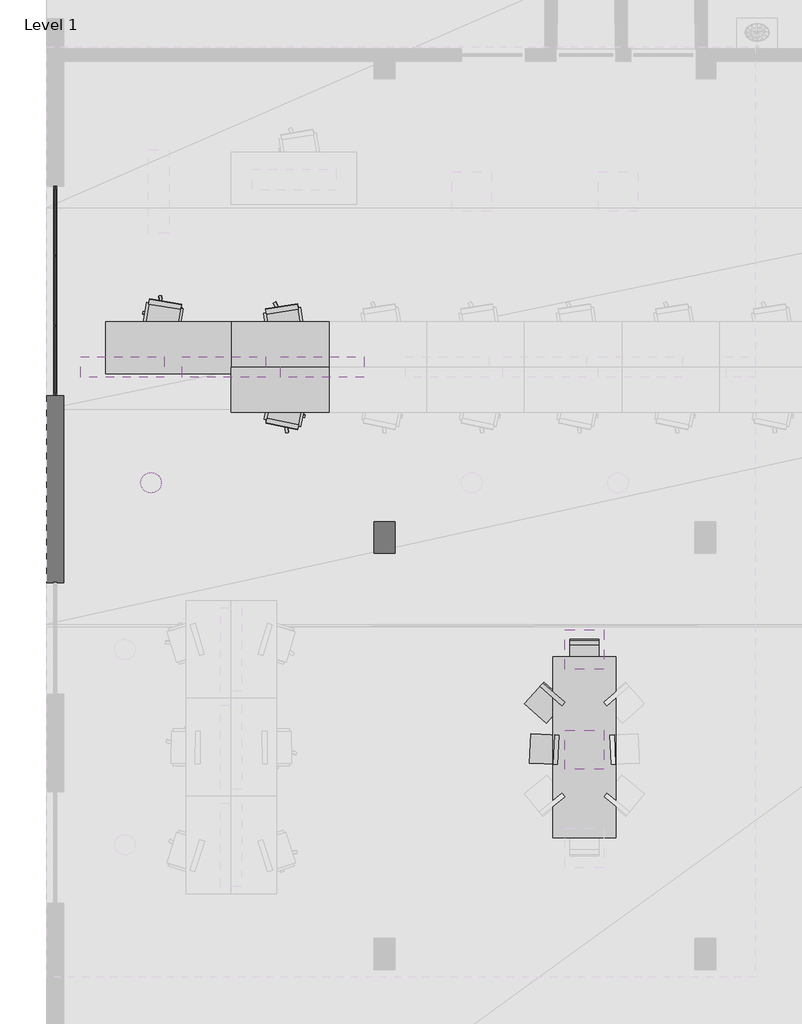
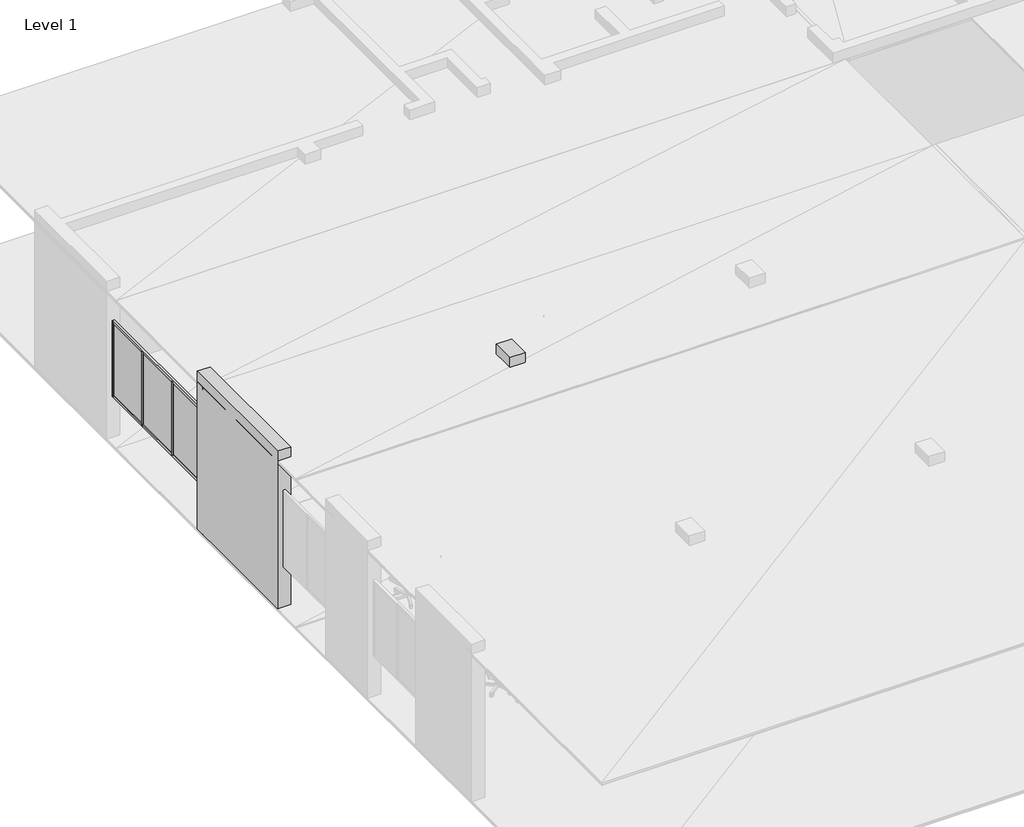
# One storey, part 6 of 14: 23 proxies.
"""IFC4 building model written with IfcOpenShell, lengths in millimetres."""

from ifc_helpers import new_model, si_unit, frame, origin, origin_with_axes, place, context, project, spatial, polyline, outline, extrude, element, save

model = new_model("IFC4")

# Units and contexts
model_context = context("Model", 3, world=origin())
ifc_project = project(units=[si_unit("LENGTHUNIT", "METRE", prefix="MILLI")], contexts=[model_context])

# Site, building, storey
site = spatial("IfcSite", under=ifc_project)
building = spatial("IfcBuilding", under=site)
storey = spatial("IfcBuildingStorey", under=building, Name="Level 1", Elevation=0.0)

# Proxies
placement = place(None, origin())
element("IfcBuildingElementProxy", 1, Name="Generic Models", at=placement, inside=storey, context=model_context, shape_type="SweptSolid", body=[
    extrude(outline(polyline([(2656.826019, 13859.130859), (4056.826115, 13859.130859), (4056.826115, 13209.131241), (2656.826019, 13209.131241), (2656.826019, 13859.130859)])), frame((0.0, 0.0, 709.999979), z_axis=(0.0, 0.0, 1.0), x_axis=(1.0, 0.0, 0.0)), (0.0, 0.0, 1.0), 40.000021),
])
element("IfcBuildingElementProxy", 2, Name="Generic Models", at=placement, inside=storey, context=model_context, shape_type="SweptSolid", body=[
    extrude(outline(polyline([(2656.826019, 14509.131432), (4056.826115, 14509.131432), (4056.826115, 13859.130859), (2656.826019, 13859.130859), (2656.826019, 14509.131432)])), frame((0.0, 0.0, 709.999979), z_axis=(0.0, 0.0, 1.0), x_axis=(1.0, 0.0, 0.0)), (0.0, 0.0, 1.0), 40.000021),
])
element("IfcBuildingElementProxy", 3, Name="Generic Models", at=placement, inside=storey, context=model_context, shape_type="SweptSolid", body=[
    extrude(outline(polyline([(2656.826019, 13759.131432), (856.826067, 13759.131432), (856.826067, 14509.131432), (2656.826019, 14509.131432), (2656.826019, 13759.131432)])), frame((0.0, 0.0, 709.999979), z_axis=(0.0, 0.0, 1.0), x_axis=(1.0, 0.0, 0.0)), (0.0, 0.0, 1.0), 40.000021),
])
element("IfcBuildingElementProxy", 4, Name="Generic Models", at=placement, inside=storey, context=model_context, shape_type="SweptSolid", body=[
    extrude(outline(polyline([(4706.017494, 11640.000343), (5006.017685, 11640.000343), (5006.017685, 11190.000534), (4706.017494, 11190.000534), (4706.017494, 11640.000343)])), origin_with_axes(), (0.0, 0.0, 1.0), 3200.000048),
])
element("IfcBuildingElementProxy", 5, Name="Generic Models", at=placement, inside=storey, context=model_context, shape_type="SweptSolid", body=[
    extrude(outline(polyline([(6.826094, 13450.000763), (256.826103, 13450.000763), (256.826103, 10770.000458), (6.826094, 10770.000458), (6.826094, 13450.000763)])), origin_with_axes(), (0.0, 0.0, 1.0), 3200.000048),
])
element("IfcBuildingElementProxy", 6, Name="Generic Models", at=placement, inside=storey, context=model_context, shape_type="SweptSolid", body=[
    extrude(outline(polyline([(153.899997, 15437.5), (108.900003, 15437.5), (108.900003, 15462.499619), (153.899997, 15462.499619), (153.899997, 15437.5)])), frame((0.0, 0.0, 850.000024), z_axis=(0.0, 0.0, 1.0), x_axis=(1.0, 0.0, 0.0)), (0.0, 0.0, 1.0), 1499.999881),
    extrude(outline(polyline([(153.899997, 14437.5), (108.900003, 14437.5), (108.900003, 14462.499619), (153.899997, 14462.499619), (153.899997, 14437.5)])), frame((0.0, 0.0, 850.000024), z_axis=(0.0, 0.0, 1.0), x_axis=(1.0, 0.0, 0.0)), (0.0, 0.0, 1.0), 1499.999881),
    extrude(outline(polyline([(153.899997, 16407.499313), (108.900003, 16407.499313), (108.900003, 16452.49939), (153.899997, 16452.49939), (153.899997, 16407.499313)])), frame((0.0, 0.0, 850.000024), z_axis=(0.0, 0.0, 1.0), x_axis=(1.0, 0.0, 0.0)), (0.0, 0.0, 1.0), 1499.999881),
    extrude(outline(polyline([(153.899997, 13447.500229), (108.900003, 13447.500229), (108.900003, 13492.500305), (153.899997, 13492.500305), (153.899997, 13447.500229)])), frame((0.0, 0.0, 850.000024), z_axis=(0.0, 0.0, 1.0), x_axis=(1.0, 0.0, 0.0)), (0.0, 0.0, 1.0), 1499.999881),
    extrude(outline(polyline([(153.899997, 13449.999809), (108.900003, 13449.999809), (108.900003, 16450.000763), (153.899997, 16450.000763), (153.899997, 13449.999809)])), frame((0.0, 0.0, 2327.500105), z_axis=(0.0, 0.0, 1.0), x_axis=(1.0, 0.0, 0.0)), (0.0, 0.0, 1.0), 44.999838),
    extrude(outline(polyline([(153.899997, 13449.999809), (108.900003, 13449.999809), (108.900003, 16450.000763), (153.899997, 16450.000763), (153.899997, 13449.999809)])), frame((0.0, 0.0, 827.499986), z_axis=(0.0, 0.0, 1.0), x_axis=(1.0, 0.0, 0.0)), (0.0, 0.0, 1.0), 45.000016),
    extrude(outline(polyline([(140.400007, 13449.999809), (122.400001, 13449.999809), (122.400001, 16450.000763), (140.400007, 16450.000763), (140.400007, 13449.999809)])), frame((0.0, 0.0, 850.000024), z_axis=(0.0, 0.0, 1.0), x_axis=(1.0, 0.0, 0.0)), (0.0, 0.0, 1.0), 1499.999881),
])
element("IfcBuildingElementProxy", 7, Name="Generic Models", at=placement, inside=storey, context=model_context, shape_type="SweptSolid", body=[
    extrude(outline(polyline([(496.284008, 13709.131241), (496.284008, 14009.130478), (1696.284056, 14009.130478), (1696.284056, 13709.131241), (496.284008, 13709.131241)])), frame((0.0, 0.0, 2910.000086), z_axis=(0.0, 0.0, 1.0), x_axis=(1.0, 0.0, 0.0)), (0.0, 0.0, 1.0), 39.999962),
])
element("IfcBuildingElementProxy", 8, Name="Generic Models", at=placement, inside=storey, context=model_context, shape_type="SweptSolid", body=[
    extrude(outline(polyline([(1949.607015, 13709.131241), (1949.607015, 14009.130478), (3149.607182, 14009.130478), (3149.607182, 13709.131241), (1949.607015, 13709.131241)])), frame((0.0, 0.0, 2910.000086), z_axis=(0.0, 0.0, 1.0), x_axis=(1.0, 0.0, 0.0)), (0.0, 0.0, 1.0), 39.999962),
])
element("IfcBuildingElementProxy", 9, Name="Generic Models", at=placement, inside=storey, context=model_context, shape_type="SweptSolid", body=[
    extrude(outline(polyline([(3360.656738, 13709.131241), (3360.656738, 14009.130478), (4560.657024, 14009.130478), (4560.657024, 13709.131241), (3360.656738, 13709.131241)])), frame((0.0, 0.0, 2910.000086), z_axis=(0.0, 0.0, 1.0), x_axis=(1.0, 0.0, 0.0)), (0.0, 0.0, 1.0), 39.999962),
])
element("IfcBuildingElementProxy", 10, Name="Generic Models", at=placement, inside=storey, context=model_context, shape_type="SweptSolid", body=[
    extrude(outline(polyline([(7443.556786, 8090.051651), (7443.556786, 8650.051117), (8003.557205, 8650.051117), (8003.557205, 8090.051651), (7443.556786, 8090.051651)])), frame((0.0, 0.0, 2910.000086), z_axis=(0.0, 0.0, 1.0), x_axis=(1.0, 0.0, 0.0)), (0.0, 0.0, 1.0), 39.999962),
])
element("IfcBuildingElementProxy", 11, Name="Generic Models", at=placement, inside=storey, context=model_context, shape_type="SweptSolid", body=[
    extrude(outline(polyline([(7443.556786, 9529.367447), (7443.556786, 10089.366913), (8003.557205, 10089.366913), (8003.557205, 9529.367447), (7443.556786, 9529.367447)])), frame((0.0, 0.0, 2910.000086), z_axis=(0.0, 0.0, 1.0), x_axis=(1.0, 0.0, 0.0)), (0.0, 0.0, 1.0), 39.999962),
])
element("IfcBuildingElementProxy", 12, Name="Generic Models", at=placement, inside=storey, context=model_context, shape_type="SweptSolid", body=[
    extrude(outline(polyline([(1642.161012, 12143.173218), (1628.543496, 12117.696762), (1610.217333, 12095.366478), (1587.88693, 12077.040672), (1562.410355, 12063.423157), (1534.766555, 12055.037498), (1506.018043, 12052.206039), (1477.26953, 12055.037498), (1449.625731, 12063.423157), (1424.149156, 12077.040672), (1401.818752, 12095.366478), (1383.492589, 12117.696762), (1369.875073, 12143.173218), (1361.489415, 12170.817375), (1358.657956, 12199.565887), (1361.489415, 12228.3144), (1369.875073, 12255.958557), (1383.492589, 12281.435013), (1401.818752, 12303.765297), (1424.149156, 12322.091103), (1449.625731, 12335.708618), (1477.26953, 12344.094276), (1506.018043, 12346.925735), (1534.766555, 12344.094276), (1562.410355, 12335.708618), (1587.88693, 12322.091103), (1610.217333, 12303.765297), (1628.543496, 12281.435013), (1642.161012, 12255.958557), (1650.54667, 12228.3144), (1653.378129, 12199.565887), (1650.54667, 12170.817375), (1642.161012, 12143.173218)])), frame((0.0, 0.0, 2910.000086), z_axis=(0.0, 0.0, 1.0), x_axis=(1.0, 0.0, 0.0)), (0.0, 0.0, 1.0), 39.999962),
])
element("IfcBuildingElementProxy", 13, Name="Generic Models", at=placement, inside=storey, context=model_context, shape_type="SweptSolid", body=[
    extrude(outline(polyline([(6942.421436, 9040.991783), (6923.870564, 9020.017624), (6902.897358, 9038.568497), (6921.447754, 9059.541702), (6942.421436, 9040.991783)])), frame((0.0, 0.0, 50.000001), z_axis=(0.0, 0.0, 1.0), x_axis=(1.0, 0.0, 0.0)), (0.0, 0.0, 1.0), 389.999997),
    extrude(outline(polyline([(7154.426098, 9280.686378), (7135.875702, 9259.713173), (7114.902496, 9278.264046), (7133.452892, 9299.237251), (7154.426098, 9280.686378)])), frame((0.0, 0.0, 50.000001), z_axis=(0.0, 0.0, 1.0), x_axis=(1.0, 0.0, 0.0)), (0.0, 0.0, 1.0), 389.999997),
    extrude(outline(polyline([(7197.097778, 8815.735817), (7178.546906, 8794.762611), (7157.5737, 8813.313484), (7176.124096, 8834.28669), (7197.097778, 8815.735817)])), frame((0.0, 0.0, 50.000001), z_axis=(0.0, 0.0, 1.0), x_axis=(1.0, 0.0, 0.0)), (0.0, 0.0, 1.0), 389.999997),
    extrude(outline(polyline([(7409.10244, 9055.431366), (7390.552044, 9034.45816), (7369.578838, 9053.009033), (7388.129234, 9073.982239), (7409.10244, 9055.431366)])), frame((0.0, 0.0, 50.000001), z_axis=(0.0, 0.0, 1.0), x_axis=(1.0, 0.0, 0.0)), (0.0, 0.0, 1.0), 389.999997),
    extrude(outline(polyline([(7439.17799, 9050.190926), (7399.426937, 9005.24807), (7084.826946, 9283.504486), (7124.577999, 9328.447342), (7439.17799, 9050.190926)])), frame((0.0, 0.0, 460.000008), z_axis=(0.0, 0.0, 1.0), x_axis=(1.0, 0.0, 0.0)), (0.0, 0.0, 1.0), 400.000006),
    extrude(outline(polyline([(7452.428341, 9065.172195), (7174.171925, 8750.571251), (6859.571457, 9028.828621), (7137.82835, 9343.428612), (7452.428341, 9065.172195)])), frame((0.0, 0.0, 417.499989), z_axis=(0.0, 0.0, 1.0), x_axis=(1.0, 0.0, 0.0)), (0.0, 0.0, 1.0), 55.000007),
])
element("IfcBuildingElementProxy", 14, Name="Generic Models", at=placement, inside=storey, context=model_context, shape_type="SweptSolid", body=[
    extrude(outline(polyline([(7017.27438, 8543.502808), (6989.303589, 8544.781685), (6990.581989, 8572.751999), (7018.55278, 8571.474075), (7017.27438, 8543.502808)])), frame((0.0, 0.0, 50.000001), z_axis=(0.0, 0.0, 1.0), x_axis=(1.0, 0.0, 0.0)), (0.0, 0.0, 1.0), 389.999997),
    extrude(outline(polyline([(7336.940765, 8528.893471), (7308.969975, 8530.171394), (7310.248375, 8558.142662), (7338.219166, 8556.863785), (7336.940765, 8528.893471)])), frame((0.0, 0.0, 50.000001), z_axis=(0.0, 0.0, 1.0), x_axis=(1.0, 0.0, 0.0)), (0.0, 0.0, 1.0), 389.999997),
    extrude(outline(polyline([(7001.7519, 8203.857422), (6973.781109, 8205.136299), (6975.059032, 8233.106613), (7003.029823, 8231.82869), (7001.7519, 8203.857422)])), frame((0.0, 0.0, 50.000001), z_axis=(0.0, 0.0, 1.0), x_axis=(1.0, 0.0, 0.0)), (0.0, 0.0, 1.0), 389.999997),
    extrude(outline(polyline([(7321.417809, 8189.248085), (7293.447018, 8190.526009), (7294.725418, 8218.497276), (7322.696209, 8217.218399), (7321.417809, 8189.248085)])), frame((0.0, 0.0, 50.000001), z_axis=(0.0, 0.0, 1.0), x_axis=(1.0, 0.0, 0.0)), (0.0, 0.0, 1.0), 389.999997),
    extrude(outline(polyline([(7336.214542, 8162.54425), (7276.277065, 8165.284157), (7295.452118, 8584.845543), (7355.389595, 8582.10659), (7336.214542, 8162.54425)])), frame((0.0, 0.0, 460.000008), z_axis=(0.0, 0.0, 1.0), x_axis=(1.0, 0.0, 0.0)), (0.0, 0.0, 1.0), 400.000006),
    extrude(outline(polyline([(7356.193542, 8161.631584), (6936.631203, 8180.80616), (6955.806732, 8600.3685), (7375.368595, 8581.193924), (7356.193542, 8161.631584)])), frame((0.0, 0.0, 417.499989), z_axis=(0.0, 0.0, 1.0), x_axis=(1.0, 0.0, 0.0)), (0.0, 0.0, 1.0), 55.000007),
])
element("IfcBuildingElementProxy", 15, Name="Generic Models", at=placement, inside=storey, context=model_context, shape_type="SweptSolid", body=[
    extrude(outline(polyline([(7565.980911, 9602.020264), (7565.977097, 9574.020386), (7537.977219, 9574.0242), (7537.981033, 9602.024078), (7565.980911, 9602.020264)])), frame((0.0, 0.0, 50.000001), z_axis=(0.0, 0.0, 1.0), x_axis=(1.0, 0.0, 0.0)), (0.0, 0.0, 1.0), 389.999997),
    extrude(outline(polyline([(7566.022873, 9922.019958), (7566.019058, 9894.020081), (7538.01918, 9894.023895), (7538.022518, 9922.023773), (7566.022873, 9922.019958)])), frame((0.0, 0.0, 50.000001), z_axis=(0.0, 0.0, 1.0), x_axis=(1.0, 0.0, 0.0)), (0.0, 0.0, 1.0), 389.999997),
    extrude(outline(polyline([(7905.981064, 9601.976395), (7905.977249, 9573.975563), (7877.977371, 9573.979378), (7877.980709, 9601.979256), (7905.981064, 9601.976395)])), frame((0.0, 0.0, 50.000001), z_axis=(0.0, 0.0, 1.0), x_axis=(1.0, 0.0, 0.0)), (0.0, 0.0, 1.0), 389.999997),
    extrude(outline(polyline([(7906.022549, 9921.976089), (7906.019211, 9893.976212), (7878.018856, 9893.980026), (7878.022671, 9921.979904), (7906.022549, 9921.976089)])), frame((0.0, 0.0, 50.000001), z_axis=(0.0, 0.0, 1.0), x_axis=(1.0, 0.0, 0.0)), (0.0, 0.0, 1.0), 389.999997),
    extrude(outline(polyline([(7932.024956, 9937.973022), (7932.01685, 9877.972603), (7512.016773, 9878.026962), (7512.024879, 9938.027382), (7932.024956, 9937.973022)])), frame((0.0, 0.0, 460.000008), z_axis=(0.0, 0.0, 1.0), x_axis=(1.0, 0.0, 0.0)), (0.0, 0.0, 1.0), 400.000006),
    extrude(outline(polyline([(7932.02734, 9957.972527), (7931.972504, 9537.97245), (7511.972427, 9538.027763), (7512.027264, 9958.02784), (7932.02734, 9957.972527)])), frame((0.0, 0.0, 417.499989), z_axis=(0.0, 0.0, 1.0), x_axis=(1.0, 0.0, 0.0)), (0.0, 0.0, 1.0), 55.000007),
])
element("IfcBuildingElementProxy", 16, Name="Generic Models", at=placement, inside=storey, context=model_context, shape_type="SweptSolid", body=[
    extrude(outline(polyline([(7272.175312, 7108.782291), (7272.175312, 9704.969406), (8172.175407, 9704.969406), (8172.175407, 7108.782291), (7272.175312, 7108.782291)])), frame((0.0, 0.0, 709.999979), z_axis=(0.0, 0.0, 1.0), x_axis=(1.0, 0.0, 0.0)), (0.0, 0.0, 1.0), 40.000021),
])
element("IfcBuildingElementProxy", 17, Name="Generic Models", at=placement, inside=storey, context=model_context, shape_type="SweptSolid", body=[
    extrude(outline(polyline([(4004.326344, 13284.13105), (3959.326029, 13284.13105), (3959.326029, 13784.13105), (4004.326344, 13784.13105), (4004.326344, 13284.13105)])), frame((0.0, 0.0, 639.999986), z_axis=(0.0, 0.0, 1.0), x_axis=(1.0, 0.0, 0.0)), (0.0, 0.0, 1.0), 69.999993),
    extrude(outline(polyline([(2754.326105, 13284.13105), (2709.326029, 13284.13105), (2709.326029, 13784.13105), (2754.326105, 13784.13105), (2754.326105, 13284.13105)])), frame((0.0, 0.0, 639.999986), z_axis=(0.0, 0.0, 1.0), x_axis=(1.0, 0.0, 0.0)), (0.0, 0.0, 1.0), 69.999993),
    extrude(outline(polyline([(2731.826067, 13761.631012), (2731.826067, 13806.631088), (3981.826067, 13806.631088), (3981.826067, 13761.631012), (2731.826067, 13761.631012)])), frame((0.0, 0.0, 639.999986), z_axis=(0.0, 0.0, 1.0), x_axis=(1.0, 0.0, 0.0)), (0.0, 0.0, 1.0), 69.999993),
    extrude(outline(polyline([(2731.826067, 13261.631012), (2731.826067, 13306.631088), (3981.826067, 13306.631088), (3981.826067, 13261.631012), (2731.826067, 13261.631012)])), frame((0.0, 0.0, 639.999986), z_axis=(0.0, 0.0, 1.0), x_axis=(1.0, 0.0, 0.0)), (0.0, 0.0, 1.0), 69.999993),
    extrude(outline(polyline([(3957.451105, 13759.756088), (3957.451105, 13808.506012), (4006.201267, 13808.506012), (4006.201267, 13759.756088), (3957.451105, 13759.756088)])), frame((0.0, 0.0, 50.000001), z_axis=(0.0, 0.0, 1.0), x_axis=(1.0, 0.0, 0.0)), (0.0, 0.0, 1.0), 659.999978),
    extrude(outline(polyline([(3957.451105, 13259.756088), (3957.451105, 13308.506012), (4006.201267, 13308.506012), (4006.201267, 13259.756088), (3957.451105, 13259.756088)])), frame((0.0, 0.0, 50.000001), z_axis=(0.0, 0.0, 1.0), x_axis=(1.0, 0.0, 0.0)), (0.0, 0.0, 1.0), 659.999978),
    extrude(outline(polyline([(2707.451105, 13759.756088), (2707.451105, 13808.506012), (2756.201029, 13808.506012), (2756.201029, 13759.756088), (2707.451105, 13759.756088)])), frame((0.0, 0.0, 50.000001), z_axis=(0.0, 0.0, 1.0), x_axis=(1.0, 0.0, 0.0)), (0.0, 0.0, 1.0), 659.999978),
    extrude(outline(polyline([(2707.451105, 13259.756088), (2707.451105, 13308.506012), (2756.201029, 13308.506012), (2756.201029, 13259.756088), (2707.451105, 13259.756088)])), frame((0.0, 0.0, 50.000001), z_axis=(0.0, 0.0, 1.0), x_axis=(1.0, 0.0, 0.0)), (0.0, 0.0, 1.0), 659.999978),
])
element("IfcBuildingElementProxy", 18, Name="Generic Models", at=placement, inside=storey, context=model_context, shape_type="SweptSolid", body=[
    extrude(outline(polyline([(2604.32601, 13834.131241), (2559.325933, 13834.131241), (2559.325933, 14434.131622), (2604.32601, 14434.131622), (2604.32601, 13834.131241)])), frame((0.0, 0.0, 639.999986), z_axis=(0.0, 0.0, 1.0), x_axis=(1.0, 0.0, 0.0)), (0.0, 0.0, 1.0), 69.999993),
    extrude(outline(polyline([(954.326093, 13834.131241), (909.326077, 13834.131241), (909.326077, 14434.131622), (954.326093, 14434.131622), (954.326093, 13834.131241)])), frame((0.0, 0.0, 639.999986), z_axis=(0.0, 0.0, 1.0), x_axis=(1.0, 0.0, 0.0)), (0.0, 0.0, 1.0), 69.999993),
    extrude(outline(polyline([(931.826055, 14411.631584), (931.826055, 14456.63166), (2581.825972, 14456.63166), (2581.825972, 14411.631584), (931.826055, 14411.631584)])), frame((0.0, 0.0, 639.999986), z_axis=(0.0, 0.0, 1.0), x_axis=(1.0, 0.0, 0.0)), (0.0, 0.0, 1.0), 69.999993),
    extrude(outline(polyline([(931.826055, 13811.631203), (931.826055, 13856.631279), (2581.825972, 13856.631279), (2581.825972, 13811.631203), (931.826055, 13811.631203)])), frame((0.0, 0.0, 639.999986), z_axis=(0.0, 0.0, 1.0), x_axis=(1.0, 0.0, 0.0)), (0.0, 0.0, 1.0), 69.999993),
    extrude(outline(polyline([(2556.826115, 14409.13105), (2556.826115, 14459.131241), (2606.826067, 14459.131241), (2606.826067, 14409.13105), (2556.826115, 14409.13105)])), frame((0.0, 0.0, 50.000001), z_axis=(0.0, 0.0, 1.0), x_axis=(1.0, 0.0, 0.0)), (0.0, 0.0, 1.0), 659.999978),
    extrude(outline(polyline([(2556.826115, 13809.131622), (2556.826115, 13859.131813), (2606.826067, 13859.131813), (2606.826067, 13809.131622), (2556.826115, 13809.131622)])), frame((0.0, 0.0, 50.000001), z_axis=(0.0, 0.0, 1.0), x_axis=(1.0, 0.0, 0.0)), (0.0, 0.0, 1.0), 659.999978),
    extrude(outline(polyline([(906.826079, 14409.13105), (906.826079, 14459.131241), (956.826091, 14459.131241), (956.826091, 14409.13105), (906.826079, 14409.13105)])), frame((0.0, 0.0, 50.000001), z_axis=(0.0, 0.0, 1.0), x_axis=(1.0, 0.0, 0.0)), (0.0, 0.0, 1.0), 659.999978),
    extrude(outline(polyline([(906.826079, 13809.131622), (906.826079, 13859.131813), (956.826091, 13859.131813), (956.826091, 13809.131622), (906.826079, 13809.131622)])), frame((0.0, 0.0, 50.000001), z_axis=(0.0, 0.0, 1.0), x_axis=(1.0, 0.0, 0.0)), (0.0, 0.0, 1.0), 659.999978),
])
element("IfcBuildingElementProxy", 19, Name="Generic Models", at=placement, inside=storey, context=model_context, shape_type="SweptSolid", body=[
    extrude(outline(polyline([(4004.326344, 13934.130669), (3959.326029, 13934.130669), (3959.326029, 14434.131622), (4004.326344, 14434.131622), (4004.326344, 13934.130669)])), frame((0.0, 0.0, 639.999986), z_axis=(0.0, 0.0, 1.0), x_axis=(1.0, 0.0, 0.0)), (0.0, 0.0, 1.0), 69.999993),
    extrude(outline(polyline([(2754.326105, 13934.130669), (2709.326029, 13934.130669), (2709.326029, 14434.131622), (2754.326105, 14434.131622), (2754.326105, 13934.130669)])), frame((0.0, 0.0, 639.999986), z_axis=(0.0, 0.0, 1.0), x_axis=(1.0, 0.0, 0.0)), (0.0, 0.0, 1.0), 69.999993),
    extrude(outline(polyline([(2731.826067, 14411.631584), (2731.826067, 14456.63166), (3981.826067, 14456.63166), (3981.826067, 14411.631584), (2731.826067, 14411.631584)])), frame((0.0, 0.0, 639.999986), z_axis=(0.0, 0.0, 1.0), x_axis=(1.0, 0.0, 0.0)), (0.0, 0.0, 1.0), 69.999993),
    extrude(outline(polyline([(2731.826067, 13911.63063), (2731.826067, 13956.630707), (3981.826067, 13956.630707), (3981.826067, 13911.63063), (2731.826067, 13911.63063)])), frame((0.0, 0.0, 639.999986), z_axis=(0.0, 0.0, 1.0), x_axis=(1.0, 0.0, 0.0)), (0.0, 0.0, 1.0), 69.999993),
    extrude(outline(polyline([(3957.451105, 14409.75666), (3957.451105, 14458.506584), (4006.201267, 14458.506584), (4006.201267, 14409.75666), (3957.451105, 14409.75666)])), frame((0.0, 0.0, 50.000001), z_axis=(0.0, 0.0, 1.0), x_axis=(1.0, 0.0, 0.0)), (0.0, 0.0, 1.0), 659.999978),
    extrude(outline(polyline([(3957.451105, 13909.755707), (3957.451105, 13958.50563), (4006.201267, 13958.50563), (4006.201267, 13909.755707), (3957.451105, 13909.755707)])), frame((0.0, 0.0, 50.000001), z_axis=(0.0, 0.0, 1.0), x_axis=(1.0, 0.0, 0.0)), (0.0, 0.0, 1.0), 659.999978),
    extrude(outline(polyline([(2707.451105, 14409.75666), (2707.451105, 14458.506584), (2756.201029, 14458.506584), (2756.201029, 14409.75666), (2707.451105, 14409.75666)])), frame((0.0, 0.0, 50.000001), z_axis=(0.0, 0.0, 1.0), x_axis=(1.0, 0.0, 0.0)), (0.0, 0.0, 1.0), 659.999978),
    extrude(outline(polyline([(2707.451105, 13909.755707), (2707.451105, 13958.50563), (2756.201029, 13958.50563), (2756.201029, 13909.755707), (2707.451105, 13909.755707)])), frame((0.0, 0.0, 50.000001), z_axis=(0.0, 0.0, 1.0), x_axis=(1.0, 0.0, 0.0)), (0.0, 0.0, 1.0), 659.999978),
])
element("IfcBuildingElementProxy", 20, Name="Generic Models", at=placement, inside=storey, context=model_context, shape_type="SweptSolid", body=[
    extrude(outline(polyline([(8119.675636, 7183.782578), (8074.67556, 7183.782578), (8074.67556, 9629.968643), (8119.675636, 9629.968643), (8119.675636, 7183.782578)])), frame((0.0, 0.0, 639.999986), z_axis=(0.0, 0.0, 1.0), x_axis=(1.0, 0.0, 0.0)), (0.0, 0.0, 1.0), 69.999993),
    extrude(outline(polyline([(7369.675159, 7183.782578), (7324.675083, 7183.782578), (7324.675083, 9629.968643), (7369.675159, 9629.968643), (7369.675159, 7183.782578)])), frame((0.0, 0.0, 639.999986), z_axis=(0.0, 0.0, 1.0), x_axis=(1.0, 0.0, 0.0)), (0.0, 0.0, 1.0), 69.999993),
    extrude(outline(polyline([(7347.175121, 9607.468605), (7347.175121, 9652.468681), (8097.175598, 9652.468681), (8097.175598, 9607.468605), (7347.175121, 9607.468605)])), frame((0.0, 0.0, 639.999986), z_axis=(0.0, 0.0, 1.0), x_axis=(1.0, 0.0, 0.0)), (0.0, 0.0, 1.0), 69.999993),
    extrude(outline(polyline([(7347.175121, 7161.282539), (7347.175121, 7206.282616), (8097.175598, 7206.282616), (8097.175598, 7161.282539), (7347.175121, 7161.282539)])), frame((0.0, 0.0, 639.999986), z_axis=(0.0, 0.0, 1.0), x_axis=(1.0, 0.0, 0.0)), (0.0, 0.0, 1.0), 69.999993),
    extrude(outline(polyline([(8072.175026, 9604.969025), (8072.175026, 9654.969215), (8122.175217, 9654.969215), (8122.175217, 9604.969025), (8072.175026, 9604.969025)])), frame((0.0, 0.0, 50.000001), z_axis=(0.0, 0.0, 1.0), x_axis=(1.0, 0.0, 0.0)), (0.0, 0.0, 1.0), 659.999978),
    extrude(outline(polyline([(8072.175026, 7158.782482), (8072.175026, 7208.782196), (8122.175217, 7208.782196), (8122.175217, 7158.782482), (8072.175026, 7158.782482)])), frame((0.0, 0.0, 50.000001), z_axis=(0.0, 0.0, 1.0), x_axis=(1.0, 0.0, 0.0)), (0.0, 0.0, 1.0), 659.999978),
    extrude(outline(polyline([(7322.175026, 9604.969025), (7322.175026, 9654.969215), (7372.175217, 9654.969215), (7372.175217, 9604.969025), (7322.175026, 9604.969025)])), frame((0.0, 0.0, 50.000001), z_axis=(0.0, 0.0, 1.0), x_axis=(1.0, 0.0, 0.0)), (0.0, 0.0, 1.0), 659.999978),
    extrude(outline(polyline([(7322.175026, 7158.782482), (7322.175026, 7208.782196), (7372.175217, 7208.782196), (7372.175217, 7158.782482), (7322.175026, 7158.782482)])), frame((0.0, 0.0, 50.000001), z_axis=(0.0, 0.0, 1.0), x_axis=(1.0, 0.0, 0.0)), (0.0, 0.0, 1.0), 659.999978),
])
element("IfcBuildingElementProxy", 21, Name="Generic Models", at=placement, inside=storey, context=model_context, shape_type="SweptSolid", body=[
    extrude(outline(polyline([(1447.790265, 14629.123688), (1442.769408, 14599.546432), (1413.19263, 14604.567528), (1418.213367, 14634.144783), (1447.790265, 14629.123688)])), frame((0.0, 0.0, 439.999998), z_axis=(0.0, 0.0, 1.0), x_axis=(1.0, 0.0, 0.0)), (0.0, 0.0, 1.0), 199.999988),
    extrude(outline(polyline([(1476.195574, 14781.518936), (1419.293523, 14446.314812), (1384.787202, 14452.172279), (1441.689253, 14787.376404), (1476.195574, 14781.518936)])), frame((0.0, 0.0, 612.500012), z_axis=(0.0, 0.0, 1.0), x_axis=(1.0, 0.0, 0.0)), (0.0, 0.0, 1.0), 34.999967),
    extrude(outline(polyline([(1543.207645, 14787.894249), (1539.023638, 14763.246536), (1514.376283, 14767.430305), (1518.56029, 14792.078018), (1543.207645, 14787.894249)])), frame((0.0, 0.0, 460.000008), z_axis=(0.0, 0.0, 1.0), x_axis=(1.0, 0.0, 0.0)), (0.0, 0.0, 1.0), 400.000006),
    extrude(outline(polyline([(1940.738201, 14545.443535), (1935.717463, 14515.867233), (1906.140566, 14520.888329), (1911.161304, 14550.46463), (1940.738201, 14545.443535)])), frame((0.0, 0.0, 439.999998), z_axis=(0.0, 0.0, 1.0), x_axis=(1.0, 0.0, 0.0)), (0.0, 0.0, 1.0), 199.999988),
    extrude(outline(polyline([(1969.143629, 14697.839737), (1912.241578, 14362.634659), (1877.735138, 14368.492126), (1934.637308, 14703.697205), (1969.143629, 14697.839737)])), frame((0.0, 0.0, 612.500012), z_axis=(0.0, 0.0, 1.0), x_axis=(1.0, 0.0, 0.0)), (0.0, 0.0, 1.0), 34.999967),
    extrude(outline(polyline([(1898.130178, 14727.64492), (1893.94629, 14702.997208), (1869.298816, 14707.180977), (1873.482823, 14731.82869), (1898.130178, 14727.64492)])), frame((0.0, 0.0, 460.000008), z_axis=(0.0, 0.0, 1.0), x_axis=(1.0, 0.0, 0.0)), (0.0, 0.0, 1.0), 400.000006),
    extrude(outline(polyline([(1940.540433, 14753.410339), (1928.825378, 14684.397697), (1475.313187, 14761.383057), (1487.02836, 14830.395699), (1940.540433, 14753.410339)])), frame((0.0, 0.0, 460.000008), z_axis=(0.0, 0.0, 1.0), x_axis=(1.0, 0.0, 0.0)), (0.0, 0.0, 1.0), 479.99999),
    extrude(outline(polyline([(1941.377282, 14758.339882), (1871.086478, 14344.263077), (1417.574286, 14421.248436), (1487.86509, 14835.325241), (1941.377282, 14758.339882)])), frame((0.0, 0.0, 400.000006), z_axis=(0.0, 0.0, 1.0), x_axis=(1.0, 0.0, 0.0)), (0.0, 0.0, 1.0), 69.999993),
    extrude(outline(polyline([(1696.975827, 14559.483528), (1679.475784, 14554.794312), (1661.975741, 14559.483528), (1649.164915, 14572.294235), (1644.475818, 14589.794159), (1649.164915, 14607.294083), (1661.975741, 14620.10479), (1679.475784, 14624.794006), (1696.975827, 14620.10479), (1709.786654, 14607.294083), (1714.475751, 14589.794159), (1709.786654, 14572.294235), (1696.975827, 14559.483528)])), frame((0.0, 0.0, 115.000002), z_axis=(0.0, 0.0, 1.0), x_axis=(1.0, 0.0, 0.0)), (0.0, 0.0, 1.0), 280.000009),
    extrude(outline(polyline([(1667.182326, 14828.041077), (1622.661114, 14821.493149), (1614.65919, 14875.907898), (1659.180403, 14882.455826), (1667.182326, 14828.041077)])), frame((0.0, 0.0, 35.0), z_axis=(0.0, 0.0, 1.0), x_axis=(1.0, 0.0, 0.0)), (0.0, 0.0, 1.0), 59.999999),
    extrude(outline(polyline([(1697.517037, 14587.393761), (1662.889481, 14582.30114), (1619.242311, 14879.109383), (1653.869867, 14884.20105), (1697.517037, 14587.393761)])), frame((0.0, 0.0, 82.500003), z_axis=(0.0, 0.0, 1.0), x_axis=(1.0, 0.0, 0.0)), (0.0, 0.0, 1.0), 34.999997),
    extrude(outline(polyline([(1902.262688, 14675.107956), (1882.278323, 14715.427399), (1931.557059, 14739.852905), (1951.541543, 14699.533463), (1902.262688, 14675.107956)])), frame((0.0, 0.0, 35.0), z_axis=(0.0, 0.0, 1.0), x_axis=(1.0, 0.0, 0.0)), (0.0, 0.0, 1.0), 59.999999),
    extrude(outline(polyline([(1682.76763, 14571.893692), (1667.224169, 14603.253365), (1936.017513, 14736.48262), (1951.560974, 14705.123901), (1682.76763, 14571.893692)])), frame((0.0, 0.0, 82.500003), z_axis=(0.0, 0.0, 1.0), x_axis=(1.0, 0.0, 0.0)), (0.0, 0.0, 1.0), 34.999997),
    extrude(outline(polyline([(1829.45919, 14404.27494), (1861.629248, 14435.740471), (1900.087237, 14396.421432), (1867.917061, 14364.955902), (1829.45919, 14404.27494)])), frame((0.0, 0.0, 35.0), z_axis=(0.0, 0.0, 1.0), x_axis=(1.0, 0.0, 0.0)), (0.0, 0.0, 1.0), 59.999999),
    extrude(outline(polyline([(1663.468957, 14581.131935), (1688.490152, 14605.605125), (1898.260832, 14391.138077), (1873.239636, 14366.664886), (1663.468957, 14581.131935)])), frame((0.0, 0.0, 82.500003), z_axis=(0.0, 0.0, 1.0), x_axis=(1.0, 0.0, 0.0)), (0.0, 0.0, 1.0), 34.999997),
    extrude(outline(polyline([(1549.38364, 14389.82296), (1589.250326, 14368.950844), (1563.739896, 14320.224762), (1523.87321, 14341.096878), (1549.38364, 14389.82296)])), frame((0.0, 0.0, 35.0), z_axis=(0.0, 0.0, 1.0), x_axis=(1.0, 0.0, 0.0)), (0.0, 0.0, 1.0), 59.999999),
    extrude(outline(polyline([(1666.291237, 14602.340698), (1697.298646, 14586.107254), (1558.150649, 14320.328712), (1527.14324, 14336.56311), (1666.291237, 14602.340698)])), frame((0.0, 0.0, 82.500003), z_axis=(0.0, 0.0, 1.0), x_axis=(1.0, 0.0, 0.0)), (0.0, 0.0, 1.0), 34.999997),
    extrude(outline(polyline([(1449.091077, 14651.724815), (1441.559911, 14607.358932), (1387.335658, 14616.563797), (1394.866824, 14660.92968), (1449.091077, 14651.724815)])), frame((0.0, 0.0, 35.0), z_axis=(0.0, 0.0, 1.0), x_axis=(1.0, 0.0, 0.0)), (0.0, 0.0, 1.0), 59.999999),
    extrude(outline(polyline([(1687.334061, 14606.210709), (1681.476474, 14571.703911), (1385.707736, 14621.912003), (1391.565204, 14656.417847), (1687.334061, 14606.210709)])), frame((0.0, 0.0, 82.500003), z_axis=(0.0, 0.0, 1.0), x_axis=(1.0, 0.0, 0.0)), (0.0, 0.0, 1.0), 34.999997),
])
element("IfcBuildingElementProxy", 22, Name="Generic Models", at=placement, inside=storey, context=model_context, shape_type="SweptSolid", body=[
    extrude(outline(polyline([(3177.145004, 14484.13372), (3181.773186, 14454.493523), (3152.132511, 14449.865341), (3147.504091, 14479.505539), (3177.145004, 14484.13372)])), frame((0.0, 0.0, 439.999998), z_axis=(0.0, 0.0, 1.0), x_axis=(1.0, 0.0, 0.0)), (0.0, 0.0, 1.0), 199.999988),
    extrude(outline(polyline([(3155.702114, 14637.663841), (3208.156109, 14301.734924), (3173.575163, 14296.33522), (3121.121168, 14632.264137), (3155.702114, 14637.663841)])), frame((0.0, 0.0, 612.500012), z_axis=(0.0, 0.0, 1.0), x_axis=(1.0, 0.0, 0.0)), (0.0, 0.0, 1.0), 34.999967),
    extrude(outline(polyline([(3217.224121, 14664.982796), (3221.081018, 14640.281677), (3196.380377, 14636.425018), (3192.523479, 14661.125183), (3217.224121, 14664.982796)])), frame((0.0, 0.0, 460.000008), z_axis=(0.0, 0.0, 1.0), x_axis=(1.0, 0.0, 0.0)), (0.0, 0.0, 1.0), 400.000006),
    extrude(outline(polyline([(3671.158791, 14561.272621), (3675.786972, 14531.63147), (3646.146297, 14527.003288), (3641.517878, 14556.64444), (3671.158791, 14561.272621)])), frame((0.0, 0.0, 439.999998), z_axis=(0.0, 0.0, 1.0), x_axis=(1.0, 0.0, 0.0)), (0.0, 0.0, 1.0), 199.999988),
    extrude(outline(polyline([(3649.7159, 14714.802742), (3702.170134, 14378.872871), (3667.588949, 14373.473167), (3615.134954, 14709.403038), (3649.7159, 14714.802742)])), frame((0.0, 0.0, 612.500012), z_axis=(0.0, 0.0, 1.0), x_axis=(1.0, 0.0, 0.0)), (0.0, 0.0, 1.0), 34.999967),
    extrude(outline(polyline([(3572.914124, 14720.521927), (3576.771021, 14695.821762), (3552.070379, 14691.964149), (3548.213243, 14716.665268), (3572.914124, 14720.521927)])), frame((0.0, 0.0, 460.000008), z_axis=(0.0, 0.0, 1.0), x_axis=(1.0, 0.0, 0.0)), (0.0, 0.0, 1.0), 400.000006),
    extrude(outline(polyline([(3604.951143, 14758.418083), (3615.750551, 14689.256668), (3161.257744, 14618.288994), (3150.458336, 14687.451363), (3604.951143, 14758.418083)])), frame((0.0, 0.0, 460.000008), z_axis=(0.0, 0.0, 1.0), x_axis=(1.0, 0.0, 0.0)), (0.0, 0.0, 1.0), 479.99999),
    extrude(outline(polyline([(3604.179621, 14763.358116), (3668.97583, 14348.386765), (3214.483261, 14277.420044), (3149.687052, 14692.391396), (3604.179621, 14763.358116)])), frame((0.0, 0.0, 400.000006), z_axis=(0.0, 0.0, 1.0), x_axis=(1.0, 0.0, 0.0)), (0.0, 0.0, 1.0), 69.999993),
    extrude(outline(polyline([(3426.831484, 14490.077972), (3409.331322, 14485.388756), (3391.831398, 14490.077972), (3379.020452, 14502.88868), (3374.331474, 14520.389557), (3379.020452, 14537.889481), (3391.831398, 14550.700188), (3409.331322, 14555.389404), (3426.831484, 14550.700188), (3439.642429, 14537.889481), (3444.331408, 14520.389557), (3439.642429, 14502.88868), (3426.831484, 14490.077972)])), frame((0.0, 0.0, 115.000002), z_axis=(0.0, 0.0, 1.0), x_axis=(1.0, 0.0, 0.0)), (0.0, 0.0, 1.0), 280.000009),
    extrude(outline(polyline([(3322.041035, 14742.408752), (3281.90136, 14722.066879), (3257.038832, 14771.126747), (3297.178745, 14791.46862), (3322.041035, 14742.408752)])), frame((0.0, 0.0, 35.0), z_axis=(0.0, 0.0, 1.0), x_axis=(1.0, 0.0, 0.0)), (0.0, 0.0, 1.0), 59.999999),
    extrude(outline(polyline([(3427.201509, 14523.839951), (3395.981789, 14508.018494), (3260.368824, 14775.617599), (3291.588545, 14791.439056), (3427.201509, 14523.839951)])), frame((0.0, 0.0, 82.500003), z_axis=(0.0, 0.0, 1.0), x_axis=(1.0, 0.0, 0.0)), (0.0, 0.0, 1.0), 34.999997),
    extrude(outline(polyline([(3593.510866, 14672.01519), (3561.760664, 14703.904152), (3600.73638, 14742.710114), (3632.486582, 14710.821152), (3593.510866, 14672.01519)])), frame((0.0, 0.0, 35.0), z_axis=(0.0, 0.0, 1.0), x_axis=(1.0, 0.0, 0.0)), (0.0, 0.0, 1.0), 59.999999),
    extrude(outline(polyline([(3418.135405, 14504.460335), (3393.440962, 14529.262543), (3606.035709, 14740.930557), (3630.730391, 14716.128349), (3418.135405, 14504.460335)])), frame((0.0, 0.0, 82.500003), z_axis=(0.0, 0.0, 1.0), x_axis=(1.0, 0.0, 0.0)), (0.0, 0.0, 1.0), 34.999997),
    extrude(outline(polyline([(3610.450983, 14392.079353), (3630.968094, 14432.12986), (3679.918766, 14407.052994), (3659.401655, 14367.002487), (3610.450983, 14392.079353)])), frame((0.0, 0.0, 35.0), z_axis=(0.0, 0.0, 1.0), x_axis=(1.0, 0.0, 0.0)), (0.0, 0.0, 1.0), 59.999999),
    extrude(outline(polyline([(3396.902561, 14507.09343), (3412.860155, 14538.244247), (3679.864168, 14401.463509), (3663.906336, 14370.312691), (3396.902561, 14507.09343)])), frame((0.0, 0.0, 82.500003), z_axis=(0.0, 0.0, 1.0), x_axis=(1.0, 0.0, 0.0)), (0.0, 0.0, 1.0), 34.999997),
    extrude(outline(polyline([(3349.450827, 14289.463043), (3393.881321, 14282.326698), (3385.158777, 14228.022575), (3340.728283, 14235.15892), (3349.450827, 14289.463043)])), frame((0.0, 0.0, 35.0), z_axis=(0.0, 0.0, 1.0), x_axis=(1.0, 0.0, 0.0)), (0.0, 0.0, 1.0), 59.999999),
    extrude(outline(polyline([(3392.845869, 14528.100967), (3427.402973, 14522.550583), (3379.825592, 14226.34697), (3345.268488, 14231.898308), (3392.845869, 14528.100967)])), frame((0.0, 0.0, 82.500003), z_axis=(0.0, 0.0, 1.0), x_axis=(1.0, 0.0, 0.0)), (0.0, 0.0, 1.0), 34.999997),
    extrude(outline(polyline([(3171.203613, 14505.978584), (3178.146124, 14461.517334), (3123.804569, 14453.032494), (3116.862059, 14497.493744), (3171.203613, 14505.978584)])), frame((0.0, 0.0, 35.0), z_axis=(0.0, 0.0, 1.0), x_axis=(1.0, 0.0, 0.0)), (0.0, 0.0, 1.0), 59.999999),
    extrude(outline(polyline([(3411.571741, 14538.451195), (3416.971445, 14503.87001), (3120.56303, 14457.587242), (3115.163326, 14492.167473), (3411.571741, 14538.451195)])), frame((0.0, 0.0, 82.500003), z_axis=(0.0, 0.0, 1.0), x_axis=(1.0, 0.0, 0.0)), (0.0, 0.0, 1.0), 34.999997),
])
element("IfcBuildingElementProxy", 23, Name="Generic Models", at=placement, inside=storey, context=model_context, shape_type="SweptSolid", body=[
    extrude(outline(polyline([(3653.337717, 13164.08062), (3659.376383, 13193.46714), (3688.762426, 13187.428474), (3682.723761, 13158.041954), (3653.337717, 13164.08062)])), frame((0.0, 0.0, 439.999998), z_axis=(0.0, 0.0, 1.0), x_axis=(1.0, 0.0, 0.0)), (0.0, 0.0, 1.0), 199.999988),
    extrude(outline(polyline([(3619.689941, 13012.756348), (3688.126564, 13345.797539), (3722.410202, 13338.752747), (3653.973579, 13005.711555), (3619.689941, 13012.756348)])), frame((0.0, 0.0, 612.500012), z_axis=(0.0, 0.0, 1.0), x_axis=(1.0, 0.0, 0.0)), (0.0, 0.0, 1.0), 34.999967),
    extrude(outline(polyline([(3552.497864, 13008.69751), (3557.529926, 13033.185959), (3582.018375, 13028.154373), (3576.986074, 13003.665924), (3552.497864, 13008.69751)])), frame((0.0, 0.0, 460.000008), z_axis=(0.0, 0.0, 1.0), x_axis=(1.0, 0.0, 0.0)), (0.0, 0.0, 1.0), 400.000006),
    extrude(outline(polyline([(3163.571358, 13264.722824), (3169.609785, 13294.108391), (3198.995829, 13288.069725), (3192.957401, 13258.684158), (3163.571358, 13264.722824)])), frame((0.0, 0.0, 439.999998), z_axis=(0.0, 0.0, 1.0), x_axis=(1.0, 0.0, 0.0)), (0.0, 0.0, 1.0), 199.999988),
    extrude(outline(polyline([(3129.923582, 13113.398552), (3198.359966, 13446.439743), (3232.643604, 13439.394951), (3164.20722, 13106.352806), (3129.923582, 13113.398552)])), frame((0.0, 0.0, 612.500012), z_axis=(0.0, 0.0, 1.0), x_axis=(1.0, 0.0, 0.0)), (0.0, 0.0, 1.0), 34.999967),
    extrude(outline(polyline([(3199.866056, 13081.160545), (3204.898119, 13105.648041), (3229.38633, 13100.616455), (3224.354267, 13076.128006), (3199.866056, 13081.160545)])), frame((0.0, 0.0, 460.000008), z_axis=(0.0, 0.0, 1.0), x_axis=(1.0, 0.0, 0.0)), (0.0, 0.0, 1.0), 400.000006),
    extrude(outline(polyline([(3156.591892, 13056.873322), (3170.681715, 13125.440598), (3621.266842, 13032.850266), (3607.177019, 12964.28299), (3156.591892, 13056.873322)])), frame((0.0, 0.0, 460.000008), z_axis=(0.0, 0.0, 1.0), x_axis=(1.0, 0.0, 0.0)), (0.0, 0.0, 1.0), 479.99999),
    extrude(outline(polyline([(3155.585289, 13051.976204), (3240.124702, 13463.37986), (3690.709829, 13370.788574), (3606.170416, 12959.384918), (3155.585289, 13051.976204)])), frame((0.0, 0.0, 400.000006), z_axis=(0.0, 0.0, 1.0), x_axis=(1.0, 0.0, 0.0)), (0.0, 0.0, 1.0), 69.999993),
    extrude(outline(polyline([(3440.647602, 13181.071281), (3423.147678, 13176.382065), (3405.647516, 13181.071281), (3392.836571, 13193.881989), (3388.147593, 13211.381912), (3392.836571, 13228.88279), (3405.647516, 13241.693497), (3423.147678, 13246.382713), (3440.647602, 13241.693497), (3453.458548, 13228.88279), (3458.147526, 13211.381912), (3453.458548, 13193.881989), (3440.647602, 13181.071281)])), frame((0.0, 0.0, 115.000002), z_axis=(0.0, 0.0, 1.0), x_axis=(1.0, 0.0, 0.0)), (0.0, 0.0, 1.0), 280.000009),
    extrude(outline(polyline([(3427.211523, 12972.853661), (3471.932173, 12977.860451), (3478.051424, 12923.201561), (3433.330774, 12918.194771), (3427.211523, 12972.853661)])), frame((0.0, 0.0, 35.0), z_axis=(0.0, 0.0, 1.0), x_axis=(1.0, 0.0, 0.0)), (0.0, 0.0, 1.0), 59.999999),
    extrude(outline(polyline([(3405.200005, 13214.404106), (3439.982653, 13218.297958), (3473.360538, 12920.161247), (3438.57789, 12916.266441), (3405.200005, 13214.404106)])), frame((0.0, 0.0, 82.500003), z_axis=(0.0, 0.0, 1.0), x_axis=(1.0, 0.0, 0.0)), (0.0, 0.0, 1.0), 34.999997),
    extrude(outline(polyline([(3197.549105, 13133.808136), (3216.130018, 13092.823029), (3166.037798, 13070.113182), (3147.456646, 13111.097336), (3197.549105, 13133.808136)])), frame((0.0, 0.0, 35.0), z_axis=(0.0, 0.0, 1.0), x_axis=(1.0, 0.0, 0.0)), (0.0, 0.0, 1.0), 59.999999),
    extrude(outline(polyline([(3420.475483, 13229.385376), (3434.927464, 13197.508812), (3161.696196, 13073.634148), (3147.244215, 13105.511665), (3420.475483, 13229.385376)])), frame((0.0, 0.0, 82.500003), z_axis=(0.0, 0.0, 1.0), x_axis=(1.0, 0.0, 0.0)), (0.0, 0.0, 1.0), 34.999997),
    extrude(outline(polyline([(3279.655933, 13401.967049), (3246.419191, 13371.630669), (3209.341049, 13412.25338), (3242.57803, 13442.590714), (3279.655933, 13401.967049)])), frame((0.0, 0.0, 35.0), z_axis=(0.0, 0.0, 1.0), x_axis=(1.0, 0.0, 0.0)), (0.0, 0.0, 1.0), 59.999999),
    extrude(outline(polyline([(3439.443827, 13219.48719), (3413.592815, 13195.89138), (3211.348772, 13417.470932), (3237.199545, 13441.065788), (3439.443827, 13219.48719)])), frame((0.0, 0.0, 82.500003), z_axis=(0.0, 0.0, 1.0), x_axis=(1.0, 0.0, 0.0)), (0.0, 0.0, 1.0), 34.999997),
    extrude(outline(polyline([(3560.063362, 13406.744957), (3520.940781, 13428.980827), (3548.117638, 13476.797104), (3587.240219, 13454.561234), (3560.063362, 13406.744957)])), frame((0.0, 0.0, 35.0), z_axis=(0.0, 0.0, 1.0), x_axis=(1.0, 0.0, 0.0)), (0.0, 0.0, 1.0), 59.999999),
    extrude(outline(polyline([(3435.89139, 13198.3881), (3405.462503, 13215.682983), (3553.69997, 13476.499557), (3584.128618, 13459.205627), (3435.89139, 13198.3881)])), frame((0.0, 0.0, 82.500003), z_axis=(0.0, 0.0, 1.0), x_axis=(1.0, 0.0, 0.0)), (0.0, 0.0, 1.0), 34.999997),
    extrude(outline(polyline([(3651.257753, 13141.537666), (3660.315514, 13185.617447), (3714.189768, 13174.546242), (3705.132008, 13130.467415), (3651.257753, 13141.537666)])), frame((0.0, 0.0, 35.0), z_axis=(0.0, 0.0, 1.0), x_axis=(1.0, 0.0, 0.0)), (0.0, 0.0, 1.0), 59.999999),
    extrude(outline(polyline([(3414.727449, 13195.246696), (3421.77248, 13229.530334), (3715.6322, 13169.145584), (3708.587408, 13134.861946), (3414.727449, 13195.246696)])), frame((0.0, 0.0, 82.500003), z_axis=(0.0, 0.0, 1.0), x_axis=(1.0, 0.0, 0.0)), (0.0, 0.0, 1.0), 34.999997),
])

save(model, "model.ifc")
